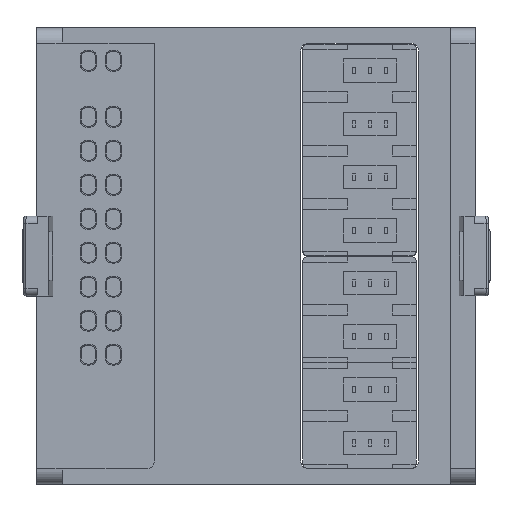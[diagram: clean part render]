
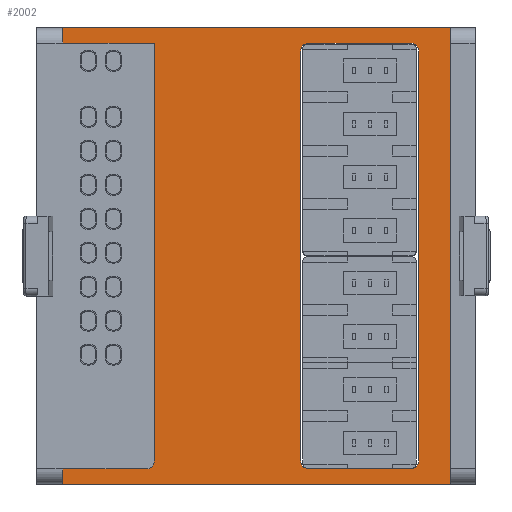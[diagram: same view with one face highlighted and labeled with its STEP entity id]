
A CAD part, front view. The second image highlights one B-rep face of the part: STEP entity #2002.
In plain terms, the highlighted planar face has unit normal (0, -1, 0).
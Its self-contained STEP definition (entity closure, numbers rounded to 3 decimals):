
#332=PLANE('',#29051);
#1642=FACE_BOUND('',#5219,.T.);
#1643=FACE_BOUND('',#5220,.T.);
#2002=ADVANCED_FACE('',(#1642,#1643),#332,.T.);
#5219=EDGE_LOOP('',(#14536,#14537,#14538,#14539,#14540,#14541,#14542,#14543,
#14544,#14545,#14546));
#5220=EDGE_LOOP('',(#14547,#14548,#14549,#14550,#14551,#14552,#14553,#14554));
#7065=LINE('',#39569,#10426);
#7072=LINE('',#39587,#10433);
#7081=LINE('',#39614,#10442);
#7087=LINE('',#39635,#10448);
#7089=LINE('',#39638,#10450);
#7091=LINE('',#39641,#10452);
#7094=LINE('',#39647,#10455);
#7095=LINE('',#39649,#10456);
#7098=LINE('',#39655,#10459);
#7101=LINE('',#39661,#10462);
#7108=LINE('',#39682,#10469);
#7109=LINE('',#39686,#10470);
#7110=LINE('',#39688,#10471);
#7113=LINE('',#39700,#10474);
#10426=VECTOR('',#31830,1.);
#10433=VECTOR('',#31839,1.);
#10442=VECTOR('',#31862,1.);
#10448=VECTOR('',#31882,1.);
#10450=VECTOR('',#31886,1.);
#10452=VECTOR('',#31890,1.);
#10455=VECTOR('',#31897,1.);
#10456=VECTOR('',#31900,1.);
#10459=VECTOR('',#31905,1.);
#10462=VECTOR('',#31910,1.);
#10469=VECTOR('',#31927,1.);
#10470=VECTOR('',#31934,1.);
#10471=VECTOR('',#31937,1.);
#10474=VECTOR('',#31956,1.);
#14536=ORIENTED_EDGE('',*,*,#24075,.T.);
#14537=ORIENTED_EDGE('',*,*,#24633,.F.);
#14538=ORIENTED_EDGE('',*,*,#24650,.F.);
#14539=ORIENTED_EDGE('',*,*,#24599,.T.);
#14540=ORIENTED_EDGE('',*,*,#24649,.F.);
#14541=ORIENTED_EDGE('',*,*,#24591,.T.);
#14542=ORIENTED_EDGE('',*,*,#24657,.F.);
#14543=ORIENTED_EDGE('',*,*,#24636,.F.);
#14544=ORIENTED_EDGE('',*,*,#24646,.F.);
#14545=ORIENTED_EDGE('',*,*,#24630,.T.);
#14546=ORIENTED_EDGE('',*,*,#24629,.F.);
#14547=ORIENTED_EDGE('',*,*,#24609,.T.);
#14548=ORIENTED_EDGE('',*,*,#24624,.T.);
#14549=ORIENTED_EDGE('',*,*,#24615,.T.);
#14550=ORIENTED_EDGE('',*,*,#24622,.F.);
#14551=ORIENTED_EDGE('',*,*,#24619,.T.);
#14552=ORIENTED_EDGE('',*,*,#24626,.F.);
#14553=ORIENTED_EDGE('',*,*,#24605,.T.);
#14554=ORIENTED_EDGE('',*,*,#24612,.F.);
#21497=VERTEX_POINT('',#38512);
#21498=VERTEX_POINT('',#38514);
#21858=VERTEX_POINT('',#39568);
#21859=VERTEX_POINT('',#39570);
#21864=VERTEX_POINT('',#39586);
#21865=VERTEX_POINT('',#39588);
#21868=VERTEX_POINT('',#39597);
#21870=VERTEX_POINT('',#39600);
#21872=VERTEX_POINT('',#39606);
#21874=VERTEX_POINT('',#39609);
#21876=VERTEX_POINT('',#39618);
#21878=VERTEX_POINT('',#39621);
#21880=VERTEX_POINT('',#39627);
#21882=VERTEX_POINT('',#39630);
#21884=VERTEX_POINT('',#39646);
#21885=VERTEX_POINT('',#39650);
#21886=VERTEX_POINT('',#39654);
#21887=VERTEX_POINT('',#39658);
#21888=VERTEX_POINT('',#39660);
#24075=EDGE_CURVE('',#21498,#21497,#28107,.T.);
#24591=EDGE_CURVE('',#21859,#21858,#7065,.T.);
#24599=EDGE_CURVE('',#21865,#21864,#7072,.T.);
#24605=EDGE_CURVE('',#21870,#21868,#28260,.T.);
#24609=EDGE_CURVE('',#21874,#21872,#28262,.T.);
#24612=EDGE_CURVE('',#21874,#21868,#7081,.T.);
#24615=EDGE_CURVE('',#21878,#21876,#28264,.T.);
#24619=EDGE_CURVE('',#21882,#21880,#28266,.T.);
#24622=EDGE_CURVE('',#21882,#21876,#7087,.T.);
#24624=EDGE_CURVE('',#21872,#21878,#7089,.T.);
#24626=EDGE_CURVE('',#21870,#21880,#7091,.T.);
#24629=EDGE_CURVE('',#21498,#21884,#7094,.T.);
#24630=EDGE_CURVE('',#21885,#21884,#7095,.T.);
#24633=EDGE_CURVE('',#21886,#21497,#7098,.T.);
#24636=EDGE_CURVE('',#21888,#21887,#7101,.T.);
#24646=EDGE_CURVE('',#21885,#21888,#7108,.T.);
#24649=EDGE_CURVE('',#21859,#21864,#7109,.T.);
#24650=EDGE_CURVE('',#21865,#21886,#7110,.T.);
#24657=EDGE_CURVE('',#21887,#21858,#7113,.T.);
#28107=CIRCLE('',#28698,1.);
#28260=CIRCLE('',#29011,1.);
#28262=CIRCLE('',#29014,1.);
#28264=CIRCLE('',#29018,1.);
#28266=CIRCLE('',#29021,1.);
#28698=AXIS2_PLACEMENT_3D('',#38513,#30851,#30852);
#29011=AXIS2_PLACEMENT_3D('',#39599,#31847,#31848);
#29014=AXIS2_PLACEMENT_3D('',#39608,#31855,#31856);
#29018=AXIS2_PLACEMENT_3D('',#39620,#31867,#31868);
#29021=AXIS2_PLACEMENT_3D('',#39629,#31875,#31876);
#29051=AXIS2_PLACEMENT_3D('',#39704,#31963,#31964);
#30851=DIRECTION('',(0.,1.,0.));
#30852=DIRECTION('',(0.,0.,-1.));
#31830=DIRECTION('',(-1.,0.,0.));
#31839=DIRECTION('',(1.,0.,0.));
#31847=DIRECTION('',(0.,1.,0.));
#31848=DIRECTION('',(0.,0.,-1.));
#31855=DIRECTION('',(0.,1.,0.));
#31856=DIRECTION('',(0.,0.,-1.));
#31862=DIRECTION('',(0.,0.,-1.));
#31867=DIRECTION('',(0.,1.,0.));
#31868=DIRECTION('',(0.,0.,-1.));
#31875=DIRECTION('',(0.,1.,0.));
#31876=DIRECTION('',(0.,0.,-1.));
#31882=DIRECTION('',(0.,0.,1.));
#31886=DIRECTION('',(1.,0.,0.));
#31890=DIRECTION('',(1.,0.,0.));
#31897=DIRECTION('',(0.,0.,1.));
#31900=DIRECTION('',(1.,0.,0.));
#31905=DIRECTION('',(1.,0.,0.));
#31910=DIRECTION('',(-1.,0.,0.));
#31927=DIRECTION('',(0.,0.,1.));
#31934=DIRECTION('',(0.,0.,-1.));
#31937=DIRECTION('',(0.,0.,1.));
#31956=DIRECTION('',(0.,0.,1.));
#31963=DIRECTION('',(0.,-1.,0.));
#31964=DIRECTION('',(-1.,0.,0.));
#38512=CARTESIAN_POINT('',(-18.109,171.991,349.863));
#38513=CARTESIAN_POINT('',(-18.109,171.991,350.863));
#38514=CARTESIAN_POINT('',(-17.109,171.991,350.863));
#39568=CARTESIAN_POINT('',(-28.388,171.991,404.169));
#39569=CARTESIAN_POINT('',(-26.732,171.991,404.169));
#39570=CARTESIAN_POINT('',(19.262,171.991,404.169));
#39586=CARTESIAN_POINT('',(19.262,171.991,347.963));
#39587=CARTESIAN_POINT('',(-26.732,171.991,347.963));
#39588=CARTESIAN_POINT('',(-28.388,171.991,347.963));
#39597=CARTESIAN_POINT('',(0.891,171.991,350.863));
#39599=CARTESIAN_POINT('',(1.891,171.991,350.863));
#39600=CARTESIAN_POINT('',(1.891,171.991,349.863));
#39606=CARTESIAN_POINT('',(1.891,171.991,402.263));
#39608=CARTESIAN_POINT('',(1.891,171.991,401.263));
#39609=CARTESIAN_POINT('',(0.891,171.991,401.263));
#39614=CARTESIAN_POINT('',(0.891,171.991,401.263));
#39618=CARTESIAN_POINT('',(15.391,171.991,401.263));
#39620=CARTESIAN_POINT('',(14.391,171.991,401.263));
#39621=CARTESIAN_POINT('',(14.391,171.991,402.263));
#39627=CARTESIAN_POINT('',(14.391,171.991,349.863));
#39629=CARTESIAN_POINT('',(14.391,171.991,350.863));
#39630=CARTESIAN_POINT('',(15.391,171.991,350.863));
#39635=CARTESIAN_POINT('',(15.391,171.991,383.783));
#39638=CARTESIAN_POINT('',(-26.732,171.991,402.263));
#39641=CARTESIAN_POINT('',(-26.732,171.991,349.863));
#39646=CARTESIAN_POINT('',(-17.109,171.991,402.263));
#39647=CARTESIAN_POINT('',(-17.109,171.991,401.263));
#39649=CARTESIAN_POINT('',(-26.732,171.991,402.263));
#39650=CARTESIAN_POINT('',(-18.609,171.991,402.263));
#39654=CARTESIAN_POINT('',(-28.388,171.991,349.863));
#39655=CARTESIAN_POINT('',(-26.732,171.991,349.863));
#39658=CARTESIAN_POINT('',(-28.388,171.991,402.269));
#39660=CARTESIAN_POINT('',(-18.609,171.991,402.269));
#39661=CARTESIAN_POINT('',(-26.732,171.991,402.269));
#39682=CARTESIAN_POINT('',(-18.609,171.991,383.783));
#39686=CARTESIAN_POINT('',(19.262,171.991,401.769));
#39688=CARTESIAN_POINT('',(-28.388,171.991,401.769));
#39700=CARTESIAN_POINT('',(-28.388,171.991,401.769));
#39704=CARTESIAN_POINT('',(-26.732,171.991,383.783));
